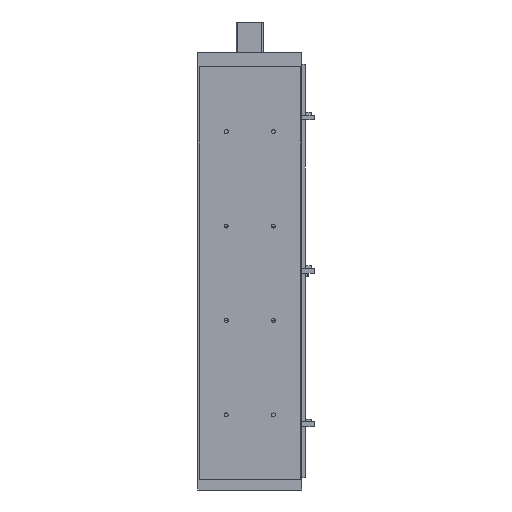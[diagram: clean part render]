
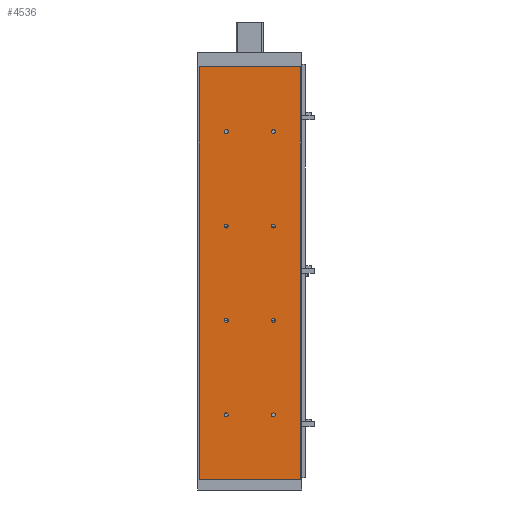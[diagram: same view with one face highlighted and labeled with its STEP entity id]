
A CAD part, front view. The second image highlights one B-rep face of the part: STEP entity #4536.
In plain terms, the highlighted planar face has unit normal (0, -1, 0).
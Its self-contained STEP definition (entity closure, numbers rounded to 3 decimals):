
#3162=CARTESIAN_POINT('',(-107.,0.0,874.0));
#3163=VERTEX_POINT('',#3162);
#3170=CARTESIAN_POINT('',(107.,0.0,874.0));
#3171=VERTEX_POINT('',#3170);
#3172=CARTESIAN_POINT('',(107.,0.0,874.0));
#3173=DIRECTION('',(-1.0,0.0,0.0));
#3174=VECTOR('',#3173,214.);
#3175=LINE('',#3172,#3174);
#3176=EDGE_CURVE('',#3171,#3163,#3175,.T.);
#3506=CARTESIAN_POINT('',(107.,0.0,0.0));
#3507=VERTEX_POINT('',#3506);
#3514=CARTESIAN_POINT('',(-107.,0.0,0.0));
#3515=VERTEX_POINT('',#3514);
#3516=CARTESIAN_POINT('',(-107.,0.0,0.0));
#3517=DIRECTION('',(1.0,0.0,0.0));
#3518=VECTOR('',#3517,214.);
#3519=LINE('',#3516,#3518);
#3520=EDGE_CURVE('',#3515,#3507,#3519,.T.);
#3557=CARTESIAN_POINT('',(-54.249,0.0,737.));
#3558=VERTEX_POINT('',#3557);
#3559=CARTESIAN_POINT('',(-49.999,0.0,737.));
#3560=DIRECTION('',(0.0,1.0,0.0));
#3561=DIRECTION('',(1.0,0.0,0.0));
#3562=AXIS2_PLACEMENT_3D('',#3559,#3560,#3561);
#3563=CIRCLE('',#3562,4.25);
#3564=EDGE_CURVE('',#3558,#3558,#3563,.T.);
#3736=CARTESIAN_POINT('',(45.751,0.0,737.));
#3737=VERTEX_POINT('',#3736);
#3738=CARTESIAN_POINT('',(50.001,0.0,737.));
#3739=DIRECTION('',(0.0,1.0,0.0));
#3740=DIRECTION('',(1.0,0.0,0.0));
#3741=AXIS2_PLACEMENT_3D('',#3738,#3739,#3740);
#3742=CIRCLE('',#3741,4.25);
#3743=EDGE_CURVE('',#3737,#3737,#3742,.T.);
#3777=CARTESIAN_POINT('',(-54.249,0.0,337.));
#3778=VERTEX_POINT('',#3777);
#3779=CARTESIAN_POINT('',(-49.999,0.0,337.));
#3780=DIRECTION('',(0.0,1.0,0.0));
#3781=DIRECTION('',(1.0,0.0,0.0));
#3782=AXIS2_PLACEMENT_3D('',#3779,#3780,#3781);
#3783=CIRCLE('',#3782,4.25);
#3784=EDGE_CURVE('',#3778,#3778,#3783,.T.);
#3956=CARTESIAN_POINT('',(45.751,0.0,337.));
#3957=VERTEX_POINT('',#3956);
#3958=CARTESIAN_POINT('',(50.001,0.0,337.));
#3959=DIRECTION('',(0.0,1.0,0.0));
#3960=DIRECTION('',(1.0,0.0,0.0));
#3961=AXIS2_PLACEMENT_3D('',#3958,#3959,#3960);
#3962=CIRCLE('',#3961,4.25);
#3963=EDGE_CURVE('',#3957,#3957,#3962,.T.);
#3997=CARTESIAN_POINT('',(-54.249,0.0,137.));
#3998=VERTEX_POINT('',#3997);
#3999=CARTESIAN_POINT('',(-49.999,0.0,137.));
#4000=DIRECTION('',(0.0,1.0,0.0));
#4001=DIRECTION('',(1.0,0.0,0.0));
#4002=AXIS2_PLACEMENT_3D('',#3999,#4000,#4001);
#4003=CIRCLE('',#4002,4.25);
#4004=EDGE_CURVE('',#3998,#3998,#4003,.T.);
#4176=CARTESIAN_POINT('',(45.751,0.0,137.));
#4177=VERTEX_POINT('',#4176);
#4178=CARTESIAN_POINT('',(50.001,0.0,137.));
#4179=DIRECTION('',(0.0,1.0,0.0));
#4180=DIRECTION('',(1.0,0.0,0.0));
#4181=AXIS2_PLACEMENT_3D('',#4178,#4179,#4180);
#4182=CIRCLE('',#4181,4.25);
#4183=EDGE_CURVE('',#4177,#4177,#4182,.T.);
#4286=CARTESIAN_POINT('',(45.751,0.0,537.0));
#4287=VERTEX_POINT('',#4286);
#4288=CARTESIAN_POINT('',(50.001,0.0,537.0));
#4289=DIRECTION('',(0.0,1.0,0.0));
#4290=DIRECTION('',(1.0,0.0,0.0));
#4291=AXIS2_PLACEMENT_3D('',#4288,#4289,#4290);
#4292=CIRCLE('',#4291,4.25);
#4293=EDGE_CURVE('',#4287,#4287,#4292,.T.);
#4396=CARTESIAN_POINT('',(-54.249,0.0,537.0));
#4397=VERTEX_POINT('',#4396);
#4398=CARTESIAN_POINT('',(-49.999,0.0,537.0));
#4399=DIRECTION('',(0.0,1.0,0.0));
#4400=DIRECTION('',(1.0,0.0,0.0));
#4401=AXIS2_PLACEMENT_3D('',#4398,#4399,#4400);
#4402=CIRCLE('',#4401,4.25);
#4403=EDGE_CURVE('',#4397,#4397,#4402,.T.);
#4423=CARTESIAN_POINT('',(107.,0.0,0.0));
#4424=DIRECTION('',(0.0,0.0,1.0));
#4425=VECTOR('',#4424,874.0);
#4426=LINE('',#4423,#4425);
#4427=EDGE_CURVE('',#3507,#3171,#4426,.T.);
#4445=CARTESIAN_POINT('',(-107.,0.0,0.0));
#4446=DIRECTION('',(0.0,0.0,1.0));
#4447=VECTOR('',#4446,874.0);
#4448=LINE('',#4445,#4447);
#4449=EDGE_CURVE('',#3515,#3163,#4448,.T.);
#4501=CARTESIAN_POINT('',(107.,0.0,0.0));
#4502=DIRECTION('',(0.0,-1.0,0.0));
#4503=DIRECTION('',(0.0,0.0,-1.0));
#4504=AXIS2_PLACEMENT_3D('',#4501,#4502,#4503);
#4505=PLANE('',#4504);
#4506=ORIENTED_EDGE('',*,*,#3176,.T.);
#4507=ORIENTED_EDGE('',*,*,#4449,.F.);
#4508=ORIENTED_EDGE('',*,*,#3520,.T.);
#4509=ORIENTED_EDGE('',*,*,#4427,.T.);
#4510=EDGE_LOOP('',(#4506,#4507,#4508,#4509));
#4511=FACE_OUTER_BOUND('',#4510,.T.);
#4512=ORIENTED_EDGE('',*,*,#3564,.T.);
#4513=EDGE_LOOP('',(#4512));
#4514=FACE_BOUND('',#4513,.T.);
#4515=ORIENTED_EDGE('',*,*,#3743,.T.);
#4516=EDGE_LOOP('',(#4515));
#4517=FACE_BOUND('',#4516,.T.);
#4518=ORIENTED_EDGE('',*,*,#3784,.T.);
#4519=EDGE_LOOP('',(#4518));
#4520=FACE_BOUND('',#4519,.T.);
#4521=ORIENTED_EDGE('',*,*,#3963,.T.);
#4522=EDGE_LOOP('',(#4521));
#4523=FACE_BOUND('',#4522,.T.);
#4524=ORIENTED_EDGE('',*,*,#4004,.T.);
#4525=EDGE_LOOP('',(#4524));
#4526=FACE_BOUND('',#4525,.T.);
#4527=ORIENTED_EDGE('',*,*,#4183,.T.);
#4528=EDGE_LOOP('',(#4527));
#4529=FACE_BOUND('',#4528,.T.);
#4530=ORIENTED_EDGE('',*,*,#4293,.T.);
#4531=EDGE_LOOP('',(#4530));
#4532=FACE_BOUND('',#4531,.T.);
#4533=ORIENTED_EDGE('',*,*,#4403,.T.);
#4534=EDGE_LOOP('',(#4533));
#4535=FACE_BOUND('',#4534,.T.);
#4536=ADVANCED_FACE('',(#4511,#4514,#4517,#4520,#4523,#4526,#4529,#4532,#4535),#4505,.T.);
